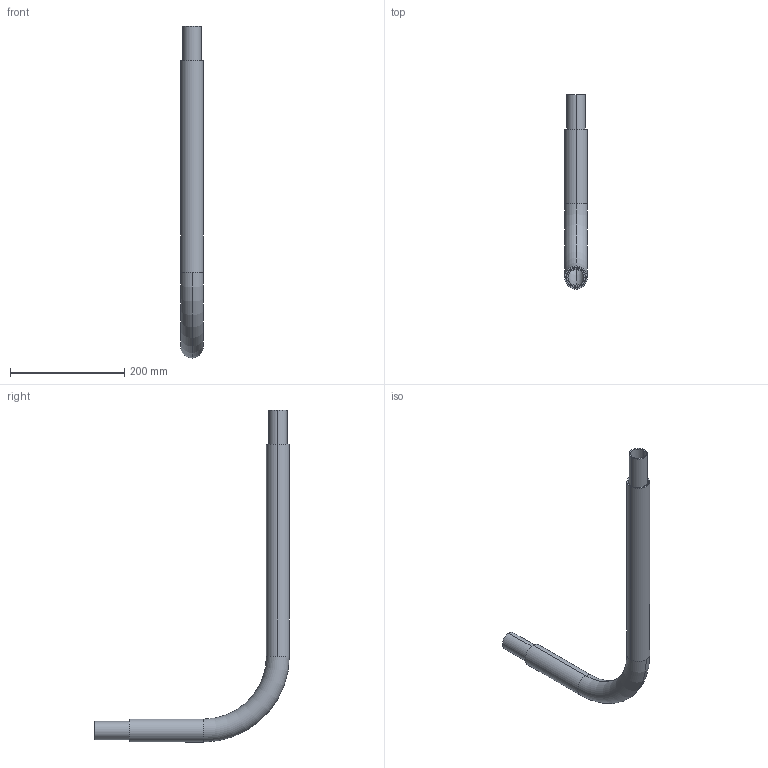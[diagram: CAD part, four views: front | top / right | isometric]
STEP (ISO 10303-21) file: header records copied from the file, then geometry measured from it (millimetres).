
FILE_DESCRIPTION (( 'STEP AP203' ), '1' );
FILE_NAME ('KP_3-40_32SC.step', '2011-08-08T11:39:56', ( '' ), ( '' ), 'SwSTEP 2.0', 'SolidWorks 2011', '' );
FILE_SCHEMA (( 'CONFIG_CONTROL_DESIGN' ));
Length unit declared in the file: millimetre
Products named in the file (1): KP_3-40_32SC
Bounding box: 40 x 340 x 580 mm (x, y, z)
Volume: 371505.7 mm3; surface area: 328381.4 mm2
Topology: 2 solids, 2 shells, 80 faces, 186 edges, 111 vertices
Faces by surface type: cylinder 50, torus 25, plane 5
Entity records: 2397 total; most frequent: DIRECTION 484, CARTESIAN_POINT 378, ORIENTED_EDGE 372, AXIS2_PLACEMENT_3D 217, EDGE_CURVE 186, CIRCLE 136, VERTEX_POINT 111, EDGE_LOOP 85
